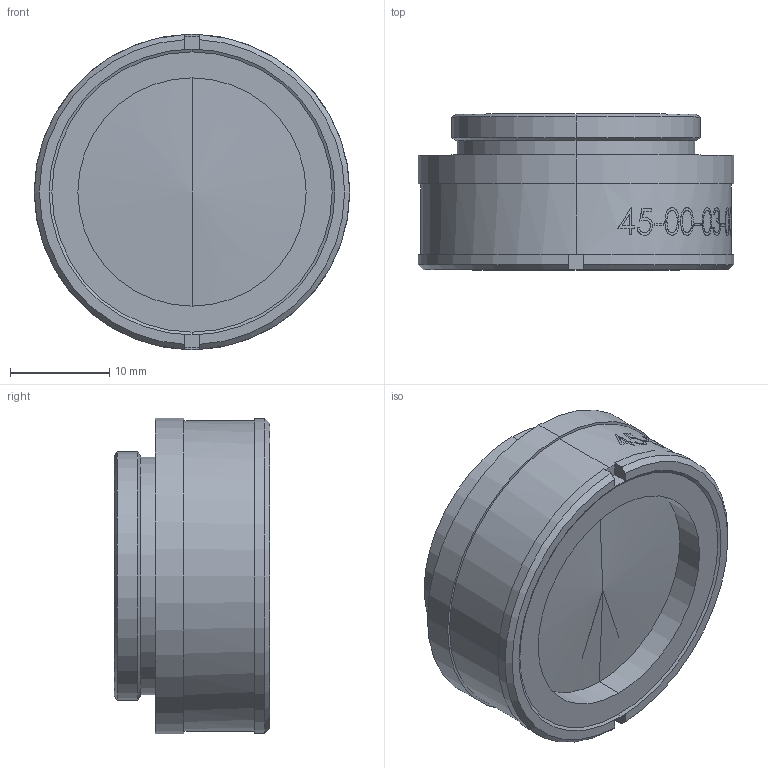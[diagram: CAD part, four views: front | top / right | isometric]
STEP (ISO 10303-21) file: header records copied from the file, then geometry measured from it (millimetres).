
FILE_DESCRIPTION (( 'STEP AP203' ), '1' );
FILE_NAME ('45-00-03-000 OUTLINE.STEP', '2020-08-17T20:53:28', ( '' ), ( '' ), 'SwSTEP 2.0', 'SolidWorks 2018', '' );
FILE_SCHEMA (( 'CONFIG_CONTROL_DESIGN' ));
Length unit declared in the file: millimetre
Products named in the file (1): 45-00-03-000 OUTLINE
Bounding box: 31.75 x 15.66 x 31.75 mm (x, y, z)
Volume: 7963.4 mm3; surface area: 3670 mm2
Topology: 1 solids, 1 shells, 260 faces, 656 edges, 430 vertices
Faces by surface type: bspline 125, plane 78, cylinder 45, cone 12
Entity records: 25081 total; most frequent: CARTESIAN_POINT 19812, ORIENTED_EDGE 1304, EDGE_CURVE 652, DIRECTION 645, VERTEX_POINT 430, B_SPLINE_CURVE_WITH_KNOTS 395, EDGE_LOOP 296, ADVANCED_FACE 260
